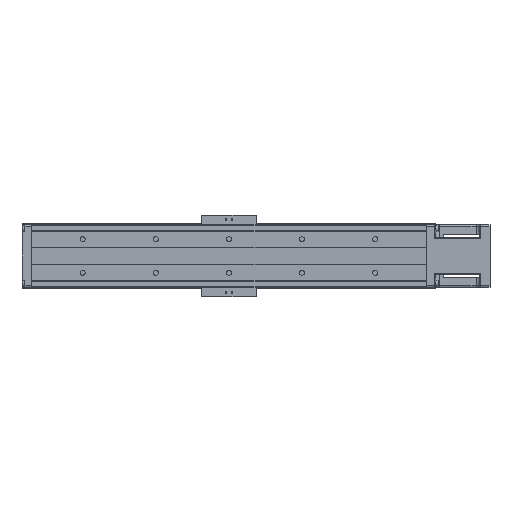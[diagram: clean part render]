
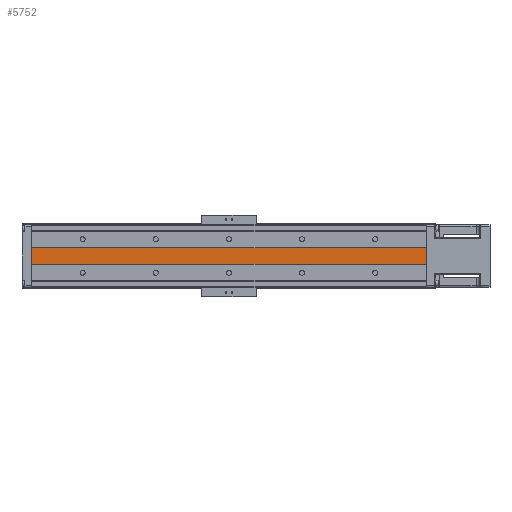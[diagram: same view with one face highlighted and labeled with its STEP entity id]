
A CAD part, front view. The second image highlights one B-rep face of the part: STEP entity #5752.
In plain terms, the highlighted planar face has unit normal (0, -1, 0).
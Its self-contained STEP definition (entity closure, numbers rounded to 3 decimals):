
#755 = EDGE_CURVE ( 'NONE', #8747, #17956, #8079, .T. ) ;
#988 = EDGE_CURVE ( 'NONE', #20033, #5228, #15786, .T. ) ;
#2594 = DIRECTION ( 'NONE',  ( 0., 0., -1. ) ) ;
#3575 = ORIENTED_EDGE ( 'NONE', *, *, #755, .F. ) ;
#4360 = VECTOR ( 'NONE', #24342, 1000. ) ;
#5228 = VERTEX_POINT ( 'NONE', #6916 ) ;
#5325 = ORIENTED_EDGE ( 'NONE', *, *, #12749, .F. ) ;
#5752 = ADVANCED_FACE ( 'NONE', ( #15098 ), #23355, .T. ) ;
#6916 = CARTESIAN_POINT ( 'NONE',  ( 220., -31.5, -11. ) ) ;
#7457 = DIRECTION ( 'NONE',  ( 0., 0., -1. ) ) ;
#7882 = VECTOR ( 'NONE', #2594, 1000. ) ;
#8079 = LINE ( 'NONE', #11334, #23211 ) ;
#8747 = VERTEX_POINT ( 'NONE', #22147 ) ;
#9088 = DIRECTION ( 'NONE',  ( 0., 0., -1. ) ) ;
#9363 = CARTESIAN_POINT ( 'NONE',  ( -320., -31.5, -11. ) ) ;
#11334 = CARTESIAN_POINT ( 'NONE',  ( -520., -31.5, 11. ) ) ;
#11546 = DIRECTION ( 'NONE',  ( 0., -1., 0. ) ) ;
#12749 = EDGE_CURVE ( 'NONE', #17956, #5228, #25407, .T. ) ;
#14224 = CARTESIAN_POINT ( 'NONE',  ( -520., -31.5, -11. ) ) ;
#15098 = FACE_OUTER_BOUND ( 'NONE', #20435, .T. ) ;
#15247 = VECTOR ( 'NONE', #9088, 1000. ) ;
#15578 = ORIENTED_EDGE ( 'NONE', *, *, #19767, .T. ) ;
#15786 = LINE ( 'NONE', #14224, #4360 ) ;
#16665 = CARTESIAN_POINT ( 'NONE',  ( 220., -31.5, 11. ) ) ;
#17149 = ORIENTED_EDGE ( 'NONE', *, *, #988, .T. ) ;
#17956 = VERTEX_POINT ( 'NONE', #16665 ) ;
#19126 = CARTESIAN_POINT ( 'NONE',  ( 220., -31.5, -11. ) ) ;
#19767 = EDGE_CURVE ( 'NONE', #8747, #20033, #23644, .T. ) ;
#20033 = VERTEX_POINT ( 'NONE', #9363 ) ;
#20435 = EDGE_LOOP ( 'NONE', ( #15578, #17149, #5325, #3575 ) ) ;
#20993 = DIRECTION ( 'NONE',  ( 1., 0., 0. ) ) ;
#21157 = CARTESIAN_POINT ( 'NONE',  ( 220., -31.5, 11. ) ) ;
#22147 = CARTESIAN_POINT ( 'NONE',  ( -320., -31.5, 11. ) ) ;
#23211 = VECTOR ( 'NONE', #20993, 1000. ) ;
#23355 = PLANE ( 'NONE',  #24669 ) ;
#23644 = LINE ( 'NONE', #24296, #7882 ) ;
#24296 = CARTESIAN_POINT ( 'NONE',  ( -320., -31.5, -5.5 ) ) ;
#24342 = DIRECTION ( 'NONE',  ( 1., 0., 0. ) ) ;
#24669 = AXIS2_PLACEMENT_3D ( 'NONE', #19126, #11546, #7457 ) ;
#25407 = LINE ( 'NONE', #21157, #15247 ) ;
